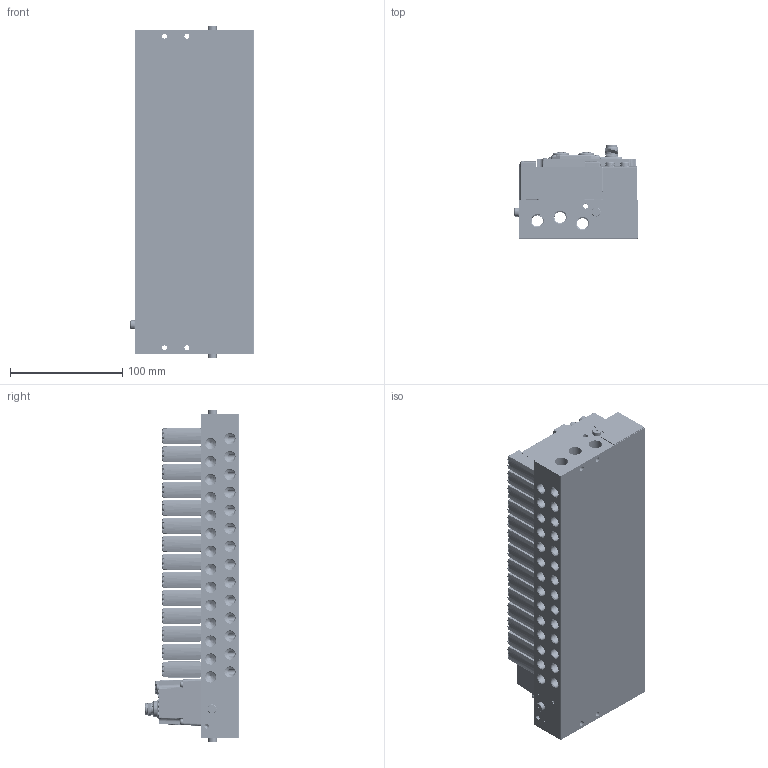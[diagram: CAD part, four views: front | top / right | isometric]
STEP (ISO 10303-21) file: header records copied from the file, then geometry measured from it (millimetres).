
FILE_DESCRIPTION((''),'2;1');
FILE_NAME('C3-L14-W-XBF-14_ASM','2026-06-22T10:53:44',('admin'),(''),'CREO PARAMETRIC BY PTC INC, 2022073','CREO PARAMETRIC BY PTC INC, 2022073','');
FILE_SCHEMA(('CONFIG_CONTROL_DESIGN'));
Products named in the file (49): 202300320_ASM-1_202300355-2-SOL; 202300320_ASM-1_202300314_ASM-1; PRT0002-1-SOLID2; NONE-45598; NONE-57438; 202300320_ASM-1_202300353-1-SOL; 202300320_ASM-1_202300353-2-SOL; 202300320_ASM-1_202300351-2-SOL; 202300320_ASM-1_202300327-1-SOL; PRT0002-1-SOLID1; 202300320_ASM-1_202300318_ASM-1; NONE-120862; PRT0002-1-SOLID4; 202300320_ASM-1_202300144-1-SOL; 202300320_ASM-1_202300351-1-SOL; 202300320_ASM-1_202300349-1-SOL; 202300320_ASM-1_202300349-2-SOL; 202300320_ASM-1_202300355-1-SOL; SURFACE-VGB14_ASM; C3-L14-W-XBF-14-185767; 0001; M50001; XBF_0001_ASM; C3-L14-W-XBF-14-200776_ASM; SURFACE-VGB14_ASM_1_ASM_1_ASM_1; M3X16-2-SOLID10001_1_1_1; M3X16-4-SOLID10001_1_1_1; SH794-1-1-SOLID1_1_1_1_1; SH794-1-1-SOLID1_1_2_1_1; SH794-1-1-SOLID1_1_3_1_1; SH794-1-1-SOLID1_1_ASM_1_ASM_1_ASM; M3X5-1-SOLID10001_1_1_1; M3X16-3-SOLID10001_1_1_1; M12D-2022_11_-70380001_1_1_1; M12D-2022_11_-82260001_1_1_1; M3X16-1-SOLID10001_1_1_1; NONE-196029_1_1_1; SH794-3-1-SOLID1_1_1_1; NONE-215390_1_1_1; M12A5-1-SOLID10001_1_1_1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
Assembly tree (93 placements, depth 9):
  C3-L14-W-XBF-14_ASM
    C3-L14-W-XBF-14-200776_ASM
      SURFACE-VGB14_ASM  x14
        202300320_ASM-1_202300355-2-SOL
        202300320_ASM-1_202300314_ASM-1
        PRT0002-1-SOLID2
        NONE-45598
        NONE-57438
        202300320_ASM-1_202300353-1-SOL
        202300320_ASM-1_202300353-2-SOL
        202300320_ASM-1_202300351-2-SOL
        202300320_ASM-1_202300327-1-SOL
        PRT0002-1-SOLID1
        202300320_ASM-1_202300318_ASM-1
        NONE-120862
        PRT0002-1-SOLID4
        202300320_ASM-1_202300144-1-SOL
        202300320_ASM-1_202300351-1-SOL
        202300320_ASM-1_202300349-1-SOL
        202300320_ASM-1_202300349-2-SOL
        202300320_ASM-1_202300355-1-SOL
      C3-L14-W-XBF-14-185767
      0001  x2
      M50001  x3
      XBF_0001_ASM
    C3EC_ASM
      C3-L14-W-XBF-24_ASM_ASM_1_ASM
        C3-L14-W-XBF-24_ASM_ASM_1_ASM_1_ASM
          C3-L14-W-XBF-24_ASM_1_ASM_1_ASM_ASM
            C3-L14-W-XBF-24-210887_ASM_1_AS_ASM
              SURFACE-VGB14_ASM_1_ASM_1_ASM_1  x24
              XBF_0001_ASM_1_ASM_1_ASM_1_ASM
                M3X16-2-SOLID10001_1_1_1
                M3X16-4-SOLID10001_1_1_1
                SH794-1-1-SOLID1_1_ASM_1_ASM_1_ASM
                  SH794-1-1-SOLID1_1_1_1_1
                  SH794-1-1-SOLID1_1_2_1_1
                  SH794-1-1-SOLID1_1_3_1_1
                M3X5-1-SOLID10001_1_1_1  x2
                M3X16-3-SOLID10001_1_1_1
                M12D-2022_11_-70380001_1_1_1
                M12D-2022_11_-82260001_1_1_1
                M3X16-1-SOLID10001_1_1_1
                NONE-196029_1_1_1
                SH794-3-1-SOLID1_1_1_1
                NONE-215390_1_1_1
                M12A5-1-SOLID10001_1_1_1
            _06--1-SOLID30001_1_1_1  x6
            IP_COVER_1_1_1
Bounding box: 110 x 83.3 x 296 mm (x, y, z)
Volume: 1314251.1 mm3; surface area: 478689.2 mm2
Topology: 280 solids, 380 shells, 21789 faces, 55880 edges, 32634 vertices
Faces by surface type: cylinder 7559, plane 5462, bspline 2402, torus 2313, cone 2057, sphere 1911, extrusion 85
Entity records: 185355 total; most frequent: CARTESIAN_POINT 67135, DIRECTION 24640, ORIENTED_EDGE 24620, EDGE_CURVE 12318, AXIS2_PLACEMENT_3D 9623, VERTEX_POINT 7883, EDGE_LOOP 5451, VECTOR 5394
